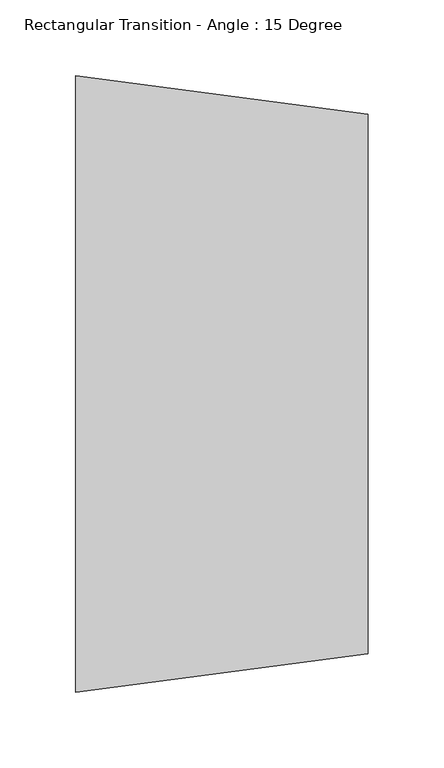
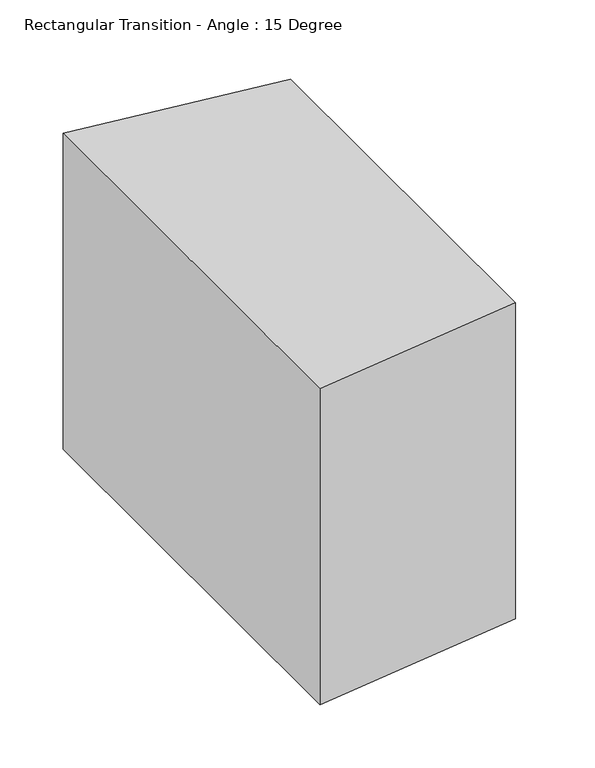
"""IFC4 building model written with IfcOpenShell, lengths in millimetres: duct fitting geometry, Rectangular Transition - Angle : 15 Degree."""

from ifc_helpers import new_model, si_unit, frame, origin, place, context, project, spatial, polyline, outline, extrude, source, transform, mapped, element, save


def rectangular_transition_angle_15_degree_1bc686c3(model_context):
    return source(origin(), model_context, "Body", "SweptSolid", [
        extrude(outline(polyline([(0.0, -203.2), (0.0, 203.2), (192.9321545, 177.8), (192.9321545, -177.8), (0.0, -203.2)])), frame((0.0, 0.0, -152.4), z_axis=(0.0, 0.0, 1.0), x_axis=(1.0, 0.0, 0.0)), (0.0, 0.0, 1.0), 304.8),
    ])


if __name__ == "__main__":
    model = new_model("IFC4")
    model_context = context("Model", 3, world=origin())
    ifc_project = project(units=[si_unit("LENGTHUNIT", "METRE", prefix="MILLI")], contexts=[model_context])
    site = spatial("IfcSite", under=ifc_project)
    building = spatial("IfcBuilding", under=site)
    placement = place(None, origin())
    rectangular_transition_angle_15_degree_shape = rectangular_transition_angle_15_degree_1bc686c3(model_context)
    element("IfcDuctFitting", 1, ObjectType="Rectangular Transition - Angle : 15 Degree", at=placement, inside=building, context=model_context, shape_type="MappedRepresentation", body=[
        mapped(rectangular_transition_angle_15_degree_shape, transform((0.0, 0.0, 0.0), x_axis=(1.0, 0.0, 0.0), y_axis=(0.0, 1.0, 0.0), z_axis=(0.0, 0.0, 1.0))),
    ])
    save(model, "model.ifc")
